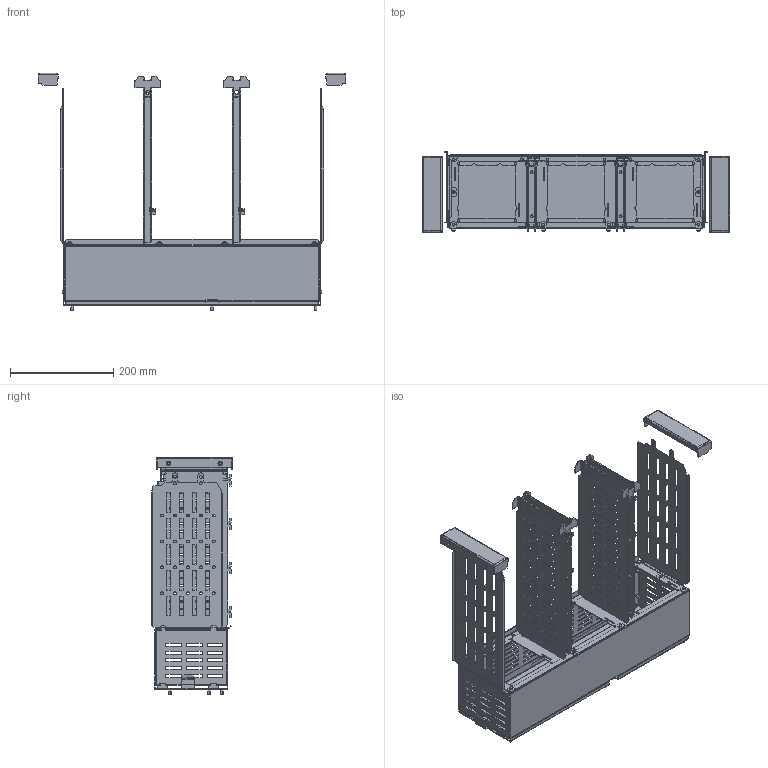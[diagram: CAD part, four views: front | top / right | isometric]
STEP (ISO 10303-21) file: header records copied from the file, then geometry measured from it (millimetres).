
FILE_DESCRIPTION(('CAx-IF Rec.Pracs.---Model Styling and Organization---1.2---2011-12-15','CAx-IF Rec.Pracs.---Geometric and Assembly Validation Properties---4.1---2014-06-16','CAx-IF Rec.Pracs.---PMI Polyline Presentation---2.0---2013-05-24'),'2;1');
FILE_NAME('R5M2W3M3A.stp','2021-05-05T12:15:28+03:00',(''),(''),'STEP Interface 4.4 by CT CoreTechnologie','3D_Evolution4.4 by CT CoreTechnologie','');
FILE_SCHEMA(('AUTOMOTIVE_DESIGN { 1 0 10303 214 1 1 1 1 }'));
Length unit declared in the file: millimetre
Products named in the file (14): R5M2W3M3A; ÒÏÀ.09.0004.00.00.2_¡¥§ § æ¥¯®¢; RB.1421.00.00.0_-01; RB.1599.00.00.0_-01; RB.1252.00.00.0_-01; RB.1251.00.00.0_-01 (for assembly); RB.0908.00.00.0_-01; M5x8-DIN7500C_stright; RB.1246.00.00.0_-01; RB.1426.00.00.0_-00; RB.1622.00.00.0_-00; RB.1285.00.00.0_-02; RB.1285.00.00.0_-03; RB.1282.00.00.0_-01
Assembly tree (44 placements, depth 2):
  R5M2W3M3A
    ÒÏÀ.09.0004.00.00.2_¡¥§ § æ¥¯®¢  x4
    RB.1421.00.00.0_-01
    RB.1599.00.00.0_-01
    RB.1252.00.00.0_-01  x2
    RB.1251.00.00.0_-01 (for assembly)  x2
    RB.0908.00.00.0_-01  x2
    M5x8-DIN7500C_stright  x22
    RB.1246.00.00.0_-01
    RB.1426.00.00.0_-00  x4
    RB.1622.00.00.0_-00
    RB.1285.00.00.0_-02
    RB.1285.00.00.0_-03
    RB.1282.00.00.0_-01  x2
Bounding box: 594 x 156 x 458.6 mm (x, y, z)
Surface area: 1225247.6 mm2 (no closed solid volume)
Topology: 0 solids, 46 shells, 3168 faces, 8775 edges, 5667 vertices
Faces by surface type: plane 2277, cylinder 567, bspline 324
Entity records: 68879 total; most frequent: CARTESIAN_POINT 13750, ORIENTED_EDGE 11474, DIRECTION 10447, EDGE_CURVE 5739, VECTOR 4849, LINE 4849, VERTEX_POINT 3746, AXIS2_PLACEMENT_3D 2799
